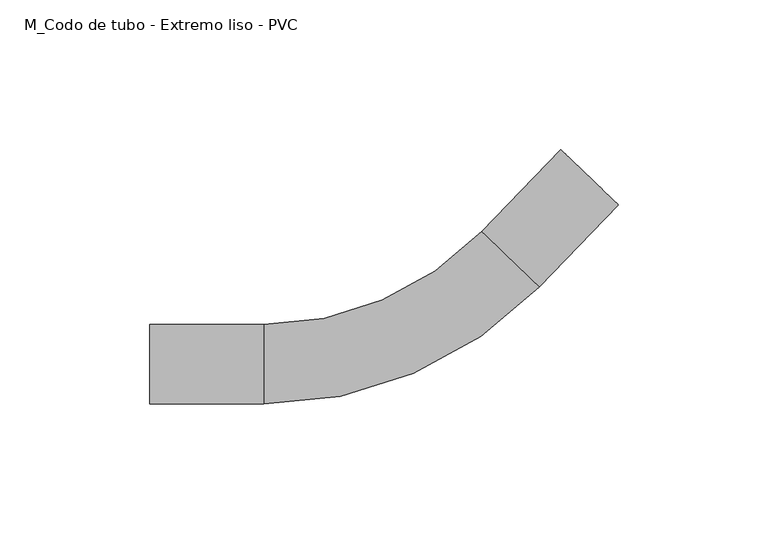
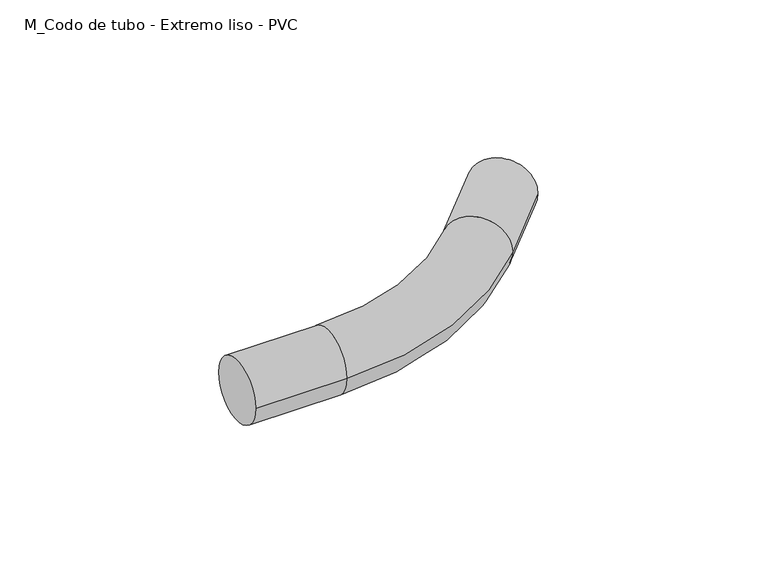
"""IFC4 building model written with IfcOpenShell, lengths in millimetres: cable carrier fitting geometry, M_Codo de tubo - Extremo liso - PVC : CODO ILUMINACION."""

from ifc_helpers import new_model, si_unit, point, frame, origin, place, context, project, spatial, circle_curve, ellipse_curve, trimmed, source, transform, mapped, element, save
from ifc_brep_helpers import plane_surface, cylinder_surface, revolved_surface, advanced_brep


def m_codo_de_tubo_extremo_liso_pvc_2218d7ee(model_context):
    return source(origin(), model_context, "Body", "AdvancedBrep", [
        advanced_brep(
        [(-86.7383071, -13.335, 0.0), (-86.7383071, 13.335, 0.0), (-48.6383071, -13.335, 0.0), (-48.6383071, 13.335, 0.0), (24.1153245, 44.293998, 0.0), (43.333265, 25.8018465, 0.0), (69.7506242, 53.2560472, 0.0), (50.5326838, 71.7481986, 0.0)],
        [
            (0, 1, circle_curve(frame((-86.7383071, 0.0, 0.0), z_axis=(-1.0, 0.0, 0.0), x_axis=(0.0, 1.0, 0.0)), 13.335)),
            (1, 0, circle_curve(frame((-86.7383071, 0.0, 0.0), z_axis=(-1.0, 0.0, 0.0), x_axis=(0.0, 1.0, 0.0)), 13.335)),
            (0, 2),
            (2, 3, circle_curve(frame((-48.6383071, 0.0, 0.0), z_axis=(-1.0, 0.0, 0.0), x_axis=(0.0, 1.0, 0.0)), 13.335)),
            (3, 1),
            (3, 2, circle_curve(frame((-48.6383071, 0.0, 0.0), z_axis=(-1.0, 0.0, 0.0), x_axis=(0.0, 1.0, 0.0)), 13.335)),
            (4, 3, circle_curve(frame((-48.6383071, 114.3, 0.0), z_axis=(0.0, 0.0, -1.0), x_axis=(0.0, -1.0, 0.0)), 100.965)),
            (2, 5, circle_curve(frame((-48.6383071, 114.3, 0.0), z_axis=(0.0, 0.0, 1.0), x_axis=(0.0, -1.0, 0.0)), 127.635)),
            (5, 4, circle_curve(frame((33.7242948, 35.0479223, 0.0), z_axis=(-0.69336900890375, -0.7205826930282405, 0.0), x_axis=(-0.7205826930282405, 0.69336900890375, 0.0)), 13.335)),
            (4, 5, circle_curve(frame((33.7242948, 35.0479223, 0.0), z_axis=(-0.6933690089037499, -0.7205826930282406, 0.0), x_axis=(-0.7205826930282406, 0.6933690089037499, 0.0)), 13.335)),
            (6, 7, circle_curve(frame((60.141654, 62.5021229, 0.0), z_axis=(0.69336900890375, 0.7205826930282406, 0.0), x_axis=(-0.7205826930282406, 0.69336900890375, 0.0)), 13.335)),
            (7, 6, circle_curve(frame((60.141654, 62.5021229, 0.0), z_axis=(0.69336900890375, 0.7205826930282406, 0.0), x_axis=(-0.7205826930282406, 0.69336900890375, 0.0)), 13.335)),
            (5, 6),
            (7, 4),
        ],
        [
            plane_surface(frame((-86.7383071, 0.0, 0.0), z_axis=(-1.0, 0.0, 0.0), x_axis=(0.0, 0.0, 1.0))),
            cylinder_surface(frame((-86.7383071, 0.0, 0.0), z_axis=(-1.0, 0.0, 0.0), x_axis=(0.0, 1.0, 0.0)), 13.335),
            revolved_surface(trimmed(ellipse_curve(frame((-48.6383071, 0.0, 0.0), z_axis=(-1.0, 0.0, 0.0), x_axis=(0.0, 1.0, 0.0)), 13.335, 13.335), [point((-48.6383071, -13.335, 0.0))], [point((-48.6383071, 13.335, 0.0))], True, "CARTESIAN"), (-48.6383071, 114.3, 0.0), (0.0, 0.0, 1.0)),
            revolved_surface(trimmed(ellipse_curve(frame((-48.6383071, 0.0, 0.0), z_axis=(-1.0, 0.0, 0.0), x_axis=(0.0, 1.0, 0.0)), 13.335, 13.335), [point((-48.6383071, 13.335, 0.0))], [point((-48.6383071, -13.335, 0.0))], True, "CARTESIAN"), (-48.6383071, 114.3, 0.0), (0.0, 0.0, 1.0)),
            plane_surface(frame((60.141654, 62.5021229, 0.0), z_axis=(0.69336900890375, 0.7205826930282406, 0.0), x_axis=(0.0, 0.0, 1.0))),
            cylinder_surface(frame((33.7242948, 35.0479223, 0.0), z_axis=(-0.69336900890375, -0.7205826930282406, 0.0), x_axis=(-0.7205826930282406, 0.69336900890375, 0.0)), 13.335),
        ],
        [
            (0, [[1, 2]]),
            (1, [[-1, 3, 4, 5]]),
            (1, [[-2, -5, 6, -3]]),
            (2, [[7, -4, 8, 9]]),
            (3, [[-8, -6, -7, 10]]),
            (4, [[11, 12]]),
            (5, [[-9, 13, -12, 14]]),
            (5, [[-10, -14, -11, -13]]),
        ],
    ),
    ])


if __name__ == "__main__":
    model = new_model("IFC4")
    model_context = context("Model", 3, world=origin())
    ifc_project = project(units=[si_unit("LENGTHUNIT", "METRE", prefix="MILLI")], contexts=[model_context])
    site = spatial("IfcSite", under=ifc_project)
    building = spatial("IfcBuilding", under=site)
    placement = place(None, origin())
    m_codo_de_tubo_extremo_liso_pvc_shape = m_codo_de_tubo_extremo_liso_pvc_2218d7ee(model_context)
    element("IfcCableCarrierFitting", 1, ObjectType="M_Codo de tubo - Extremo liso - PVC : CODO ILUMINACION", at=placement, inside=building, context=model_context, shape_type="MappedRepresentation", body=[
        mapped(m_codo_de_tubo_extremo_liso_pvc_shape, transform((0.0, 0.0, 0.0), x_axis=(1.0, 0.0, 0.0), y_axis=(0.0, 1.0, 0.0), z_axis=(0.0, 0.0, 1.0))),
    ])
    save(model, "model.ifc")
